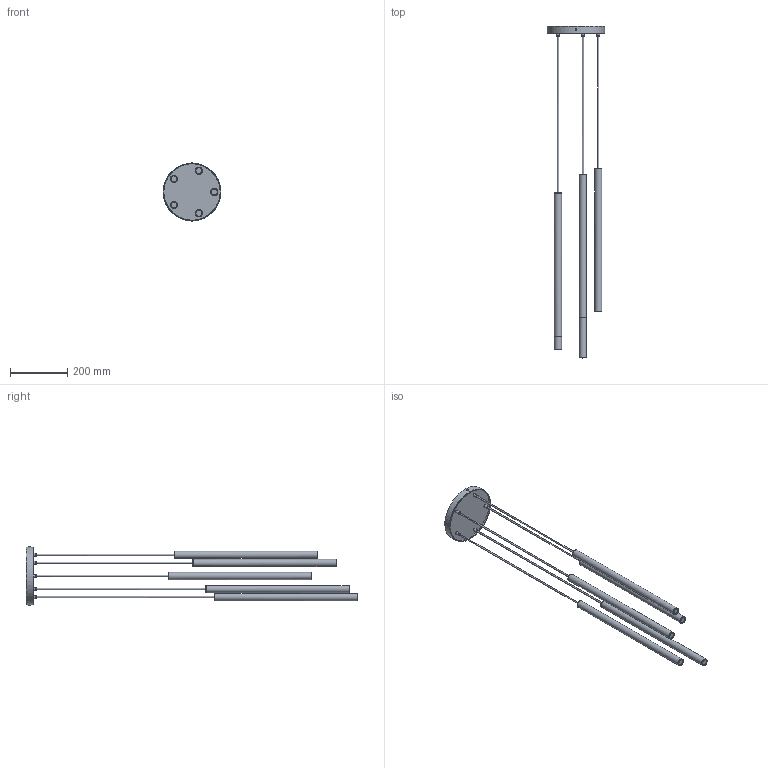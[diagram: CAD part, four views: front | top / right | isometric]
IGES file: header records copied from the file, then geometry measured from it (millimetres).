
Global section: file name: F:\\_Liczy si\X2\0119\X0\ s\X2\0142\X0\owo\\_Modelowanie SIGMA\\SOPEL 5 LUX\\SOPEL 5 LUX.igs; native system: HarmonyWare Translators; preprocessor: HarmonyWare IGES v2.1.4; date: 20240508.144506; units: centimetre
Bounding box: 200 x 1155 x 203.9 mm (x, y, z)
Volume: 1923823.2 mm3; surface area: 336429.7 mm2
Topology: 18 solids, 18 shells, 181 faces, 377 edges, 247 vertices
Faces by surface type: bspline 181
